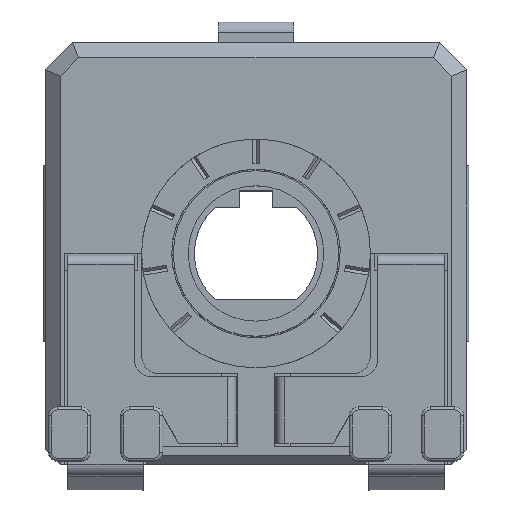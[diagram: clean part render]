
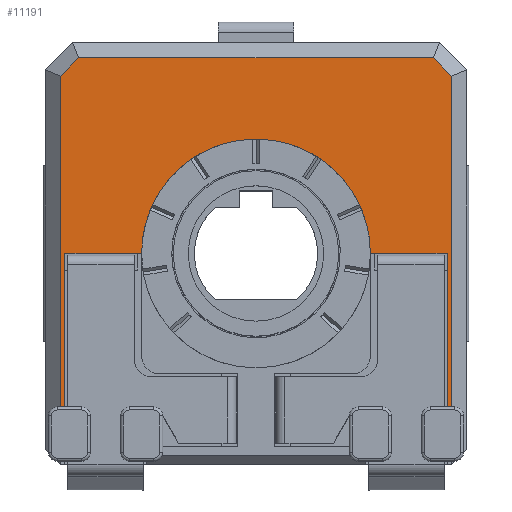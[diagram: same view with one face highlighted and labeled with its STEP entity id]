
A CAD part, top view. The second image highlights one B-rep face of the part: STEP entity #11191.
In plain terms, the highlighted planar face has unit normal (0, 0, 1).
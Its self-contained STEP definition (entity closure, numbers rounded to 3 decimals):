
#363=CIRCLE('',#12006,3.8);
#974=FACE_OUTER_BOUND('',#1563,.T.);
#1563=EDGE_LOOP('',(#9436,#9437,#9438,#9439,#9440,#9441,#9442,#9443,#9444,
#9445,#9446,#9447));
#2013=LINE('',#16050,#3285);
#2081=LINE('',#16303,#3353);
#2318=LINE('',#16936,#3590);
#2321=LINE('',#16941,#3593);
#2546=LINE('',#17501,#3818);
#2579=LINE('',#17628,#3851);
#2801=LINE('',#18172,#4073);
#2802=LINE('',#18175,#4074);
#2803=LINE('',#18176,#4075);
#2804=LINE('',#18179,#4076);
#2805=LINE('',#18180,#4077);
#3285=VECTOR('',#12908,10.);
#3353=VECTOR('',#13190,10.);
#3590=VECTOR('',#13713,10.);
#3593=VECTOR('',#13718,10.);
#3818=VECTOR('',#14091,10.);
#3851=VECTOR('',#14166,10.);
#4073=VECTOR('',#14684,10.);
#4074=VECTOR('',#14687,10.);
#4075=VECTOR('',#14688,10.);
#4076=VECTOR('',#14691,10.);
#4077=VECTOR('',#14692,10.);
#4487=VERTEX_POINT('',#15858);
#4542=VERTEX_POINT('',#16049);
#4619=VERTEX_POINT('',#16300);
#4620=VERTEX_POINT('',#16302);
#4667=VERTEX_POINT('',#16456);
#4668=VERTEX_POINT('',#16458);
#4812=VERTEX_POINT('',#16932);
#4813=VERTEX_POINT('',#16934);
#4978=VERTEX_POINT('',#17497);
#5004=VERTEX_POINT('',#17627);
#5135=VERTEX_POINT('',#18174);
#5136=VERTEX_POINT('',#18178);
#5673=EDGE_CURVE('',#4542,#4487,#2013,.T.);
#5799=EDGE_CURVE('',#4620,#4619,#2081,.T.);
#6088=EDGE_CURVE('',#4813,#4812,#2318,.T.);
#6091=EDGE_CURVE('',#4812,#4619,#2321,.T.);
#6337=EDGE_CURVE('',#4542,#4978,#2546,.T.);
#6382=EDGE_CURVE('',#4978,#5004,#2579,.T.);
#6631=EDGE_CURVE('',#5004,#4813,#2801,.T.);
#6632=EDGE_CURVE('',#4487,#5135,#2802,.T.);
#6633=EDGE_CURVE('',#5135,#4668,#2803,.T.);
#6634=EDGE_CURVE('',#4668,#4667,#363,.T.);
#6635=EDGE_CURVE('',#4667,#5136,#2804,.T.);
#6636=EDGE_CURVE('',#5136,#4620,#2805,.T.);
#9436=ORIENTED_EDGE('',*,*,#5673,.T.);
#9437=ORIENTED_EDGE('',*,*,#6632,.T.);
#9438=ORIENTED_EDGE('',*,*,#6633,.T.);
#9439=ORIENTED_EDGE('',*,*,#6634,.T.);
#9440=ORIENTED_EDGE('',*,*,#6635,.T.);
#9441=ORIENTED_EDGE('',*,*,#6636,.T.);
#9442=ORIENTED_EDGE('',*,*,#5799,.T.);
#9443=ORIENTED_EDGE('',*,*,#6091,.F.);
#9444=ORIENTED_EDGE('',*,*,#6088,.F.);
#9445=ORIENTED_EDGE('',*,*,#6631,.F.);
#9446=ORIENTED_EDGE('',*,*,#6382,.F.);
#9447=ORIENTED_EDGE('',*,*,#6337,.F.);
#10404=PLANE('',#12005);
#11191=ADVANCED_FACE('',(#974),#10404,.T.);
#12005=AXIS2_PLACEMENT_3D('',#18173,#14685,#14686);
#12006=AXIS2_PLACEMENT_3D('',#18177,#14689,#14690);
#12908=DIRECTION('',(1.,0.,0.));
#13190=DIRECTION('',(1.,0.,0.));
#13713=DIRECTION('',(0.707,-0.707,0.));
#13718=DIRECTION('',(0.,-1.,0.));
#14091=DIRECTION('',(0.,1.,0.));
#14166=DIRECTION('',(0.707,0.707,0.));
#14684=DIRECTION('',(1.,0.,0.));
#14685=DIRECTION('center_axis',(0.,0.,1.));
#14686=DIRECTION('ref_axis',(1.,0.,0.));
#14687=DIRECTION('',(0.,1.,0.));
#14688=DIRECTION('',(1.,0.,0.));
#14689=DIRECTION('center_axis',(0.,0.,-1.));
#14690=DIRECTION('ref_axis',(-1.,0.,0.));
#14691=DIRECTION('',(1.,0.,0.));
#14692=DIRECTION('',(0.,-1.,0.));
#15858=CARTESIAN_POINT('',(-13.817,-7.998,4.4));
#16049=CARTESIAN_POINT('',(-13.967,-7.998,4.4));
#16050=CARTESIAN_POINT('',(-10.217,-7.998,4.4));
#16300=CARTESIAN_POINT('',(-0.967,-7.998,4.4));
#16302=CARTESIAN_POINT('',(-1.117,-7.998,4.4));
#16303=CARTESIAN_POINT('',(-4.017,-7.998,4.4));
#16456=CARTESIAN_POINT('',(-3.667,-2.898,4.4));
#16458=CARTESIAN_POINT('',(-11.267,-2.898,4.4));
#16932=CARTESIAN_POINT('',(-0.967,2.994,4.4));
#16934=CARTESIAN_POINT('',(-1.574,3.602,4.4));
#16936=CARTESIAN_POINT('',(-1.271,3.298,4.4));
#16941=CARTESIAN_POINT('',(-0.967,0.602,4.4));
#17497=CARTESIAN_POINT('',(-13.967,2.994,4.4));
#17501=CARTESIAN_POINT('',(-13.967,-6.398,4.4));
#17627=CARTESIAN_POINT('',(-13.36,3.602,4.4));
#17628=CARTESIAN_POINT('',(-13.663,3.298,4.4));
#18172=CARTESIAN_POINT('',(-10.967,3.602,4.4));
#18173=CARTESIAN_POINT('Origin',(-7.467,-2.898,4.4));
#18174=CARTESIAN_POINT('',(-13.817,-2.898,4.4));
#18175=CARTESIAN_POINT('',(-13.817,-3.173,4.4));
#18176=CARTESIAN_POINT('',(-9.442,-2.898,4.4));
#18177=CARTESIAN_POINT('Origin',(-7.467,-2.898,4.4));
#18178=CARTESIAN_POINT('',(-1.117,-2.898,4.4));
#18179=CARTESIAN_POINT('',(-5.492,-2.898,4.4));
#18180=CARTESIAN_POINT('',(-1.117,-2.898,4.4));
